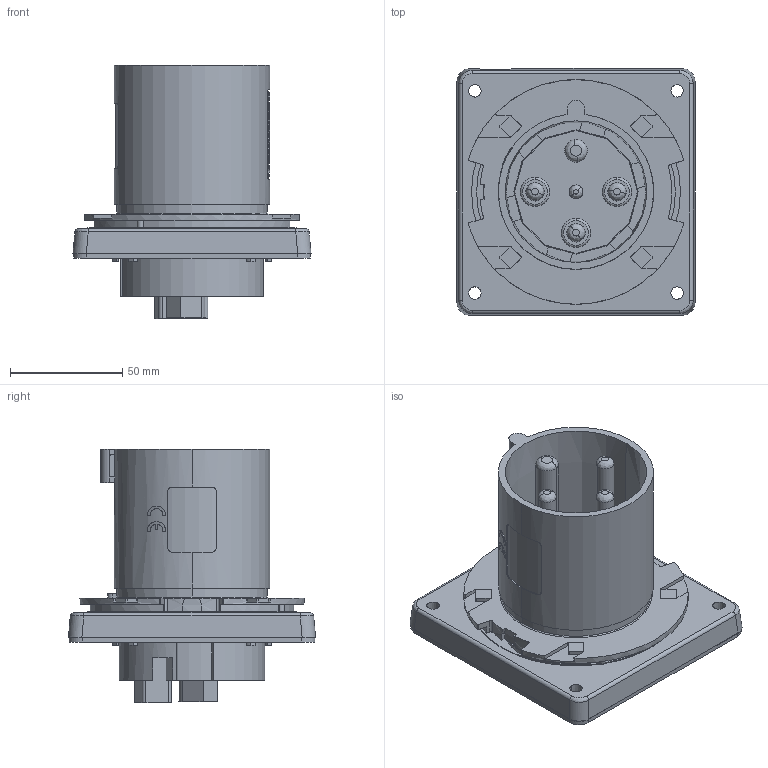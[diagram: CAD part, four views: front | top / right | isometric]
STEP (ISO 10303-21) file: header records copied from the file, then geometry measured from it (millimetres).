
FILE_DESCRIPTION((''),'2;1');
FILE_NAME('1108189_ASM_SW0001','2018-04-03T',('gisse'),('MENNEKES'),'PRO/ENGINEER BY PARAMETRIC TECHNOLOGY CORPORATION, 2015440','PRO/ENGINEER BY PARAMETRIC TECHNOLOGY CORPORATION, 2015440','');
FILE_SCHEMA(('AUTOMOTIVE_DESIGN { 1 0 10303 214 1 1 1 1 }'));
Products named in the file (1): 1108189_ASM_SW0001
Bounding box: 106 x 110 x 112.8 mm (x, y, z)
Volume: 297441.5 mm3; surface area: 80055.4 mm2
Topology: 1 solids, 1 shells, 1217 faces, 3347 edges, 2194 vertices
Faces by surface type: plane 864, cylinder 250, cone 44, bspline 38, torus 21
Entity records: 55908 total; most frequent: CARTESIAN_POINT 11628, ORIENTED_EDGE 6694, DIRECTION 5677, EDGE_CURVE 3347, FILL_AREA_STYLE_COLOUR 2300, FILL_AREA_STYLE 2300, SURFACE_STYLE_FILL_AREA 2300, SURFACE_SIDE_STYLE 2300
